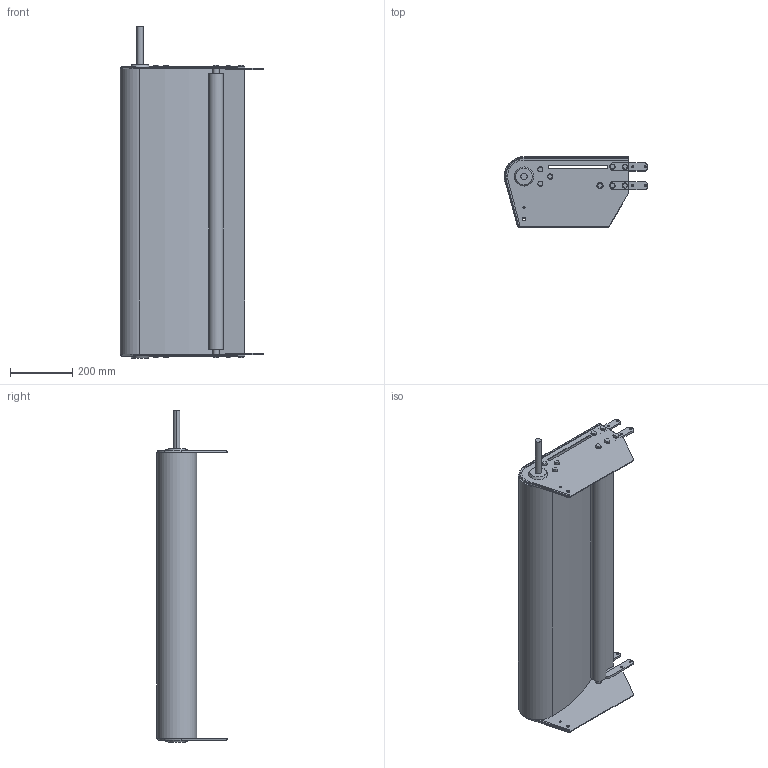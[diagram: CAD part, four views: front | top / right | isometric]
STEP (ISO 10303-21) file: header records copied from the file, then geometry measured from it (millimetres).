
FILE_DESCRIPTION (( 'STEP AP214' ), '1' );
FILE_NAME ('03.102D1L20.930 FS-930-MTS2-100.INOX Directe drive section left.STEP', '2025-02-04T12:37:01', ( '' ), ( '' ), 'SwSTEP 2.0', 'SolidWorks 2024', '' );
FILE_SCHEMA (( 'AUTOMOTIVE_DESIGN' ));
Length unit declared in the file: millimetre
Products named in the file (1): 03.102D1L20.930 FS-930-MTS2-100.INOX Directe drive section left
Bounding box: 461 x 225 x 1065 mm (x, y, z)
Volume: 10665765.9 mm3; surface area: 2299411.7 mm2
Topology: 4 solids, 4 shells, 325 faces, 794 edges, 516 vertices
Faces by surface type: plane 223, cylinder 96, cone 4, torus 2
Entity records: 9602 total; most frequent: DIRECTION 1650, CARTESIAN_POINT 1636, ORIENTED_EDGE 1588, EDGE_CURVE 794, LINE 590, VECTOR 590, AXIS2_PLACEMENT_3D 530, VERTEX_POINT 516
